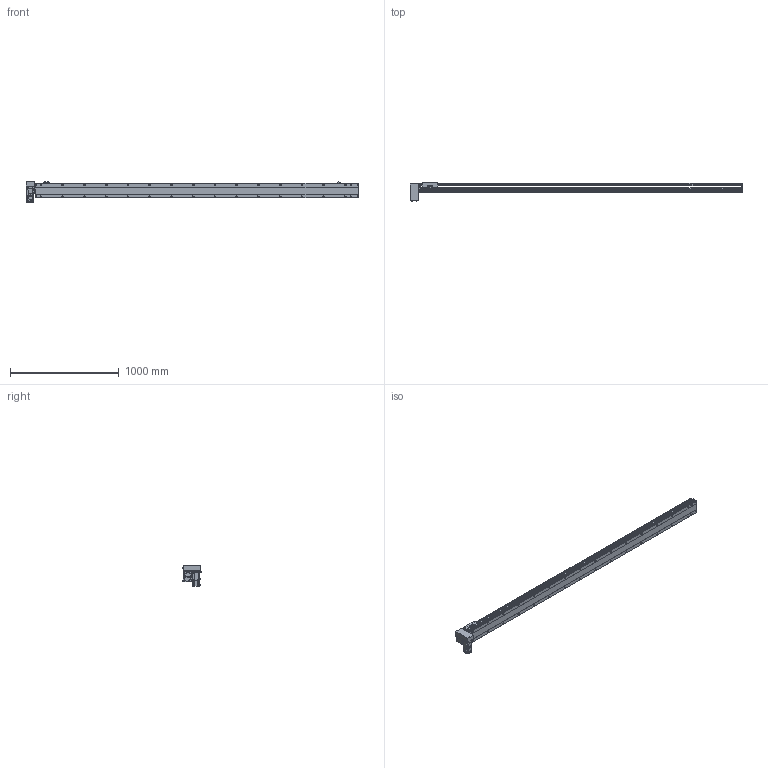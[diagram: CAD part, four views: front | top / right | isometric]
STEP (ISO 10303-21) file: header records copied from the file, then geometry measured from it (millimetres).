
FILE_DESCRIPTION( ( 'STEP AP214' ), '1' );
FILE_NAME( 'x:/temp/worker_6/temp/exporttempdir_5396_190_cjHSk/format_0/PBS140S-P40-S2700-RD-T40-C1-N(0).stp', '2022-06-09T00:48:24', ( 'License CC BY-ND 4.0' ), ( 'CADENAS' ), ' ', 'PARTsolutions', ' ' );
FILE_SCHEMA( ( 'AUTOMOTIVE_DESIGN { 1 0 10303 214 1 1 1 1 }' ) );
Length unit declared in the file: millimetre
Products named in the file (7): PBS140S-P40-S2700-RD-T40-C1-N(0); _PBS140S-S2700()_body; _PBS140ST-RD_motors; _T40-p1; _PBS140S_sliser; _PBS140S_plant; _PBS140S_sensor
Assembly tree (8 placements, depth 2):
  PBS140S-P40-S2700-RD-T40-C1-N(0)
    _PBS140S-S2700()_body
    _PBS140ST-RD_motors
    _T40-p1
    _PBS140S_sliser
    _PBS140S_plant
    _PBS140S_sensor  x3
Bounding box: 3054 x 172.5 x 189.7 mm (x, y, z)
Volume: 14779103.6 mm3; surface area: 2486560.9 mm2
Topology: 8 solids, 8 shells, 1227 faces, 3231 edges, 2113 vertices
Faces by surface type: plane 750, cylinder 409, cone 58, sphere 8, torus 2
Full cylindrical faces by diameter (mm): 3.242 x4, 4 x2, 4.134 x4, 4.4 x8, 4.5 x2, 4.8 x4, 4.917 x40, 5.5 x7, 6 x2, 7 x34, 7.5 x8, 8 x12, 8.5 x4, 10.5 x32, 14 x1, 30 x2, 50 x2
Entity records: 45472 total; most frequent: CARTESIAN_POINT 7750, DIRECTION 5908, ORIENTED_EDGE 5542, EDGE_CURVE 2771, AXIS2_PLACEMENT_3D 2099, VERTEX_POINT 1945, LINE 1710, VECTOR 1710
